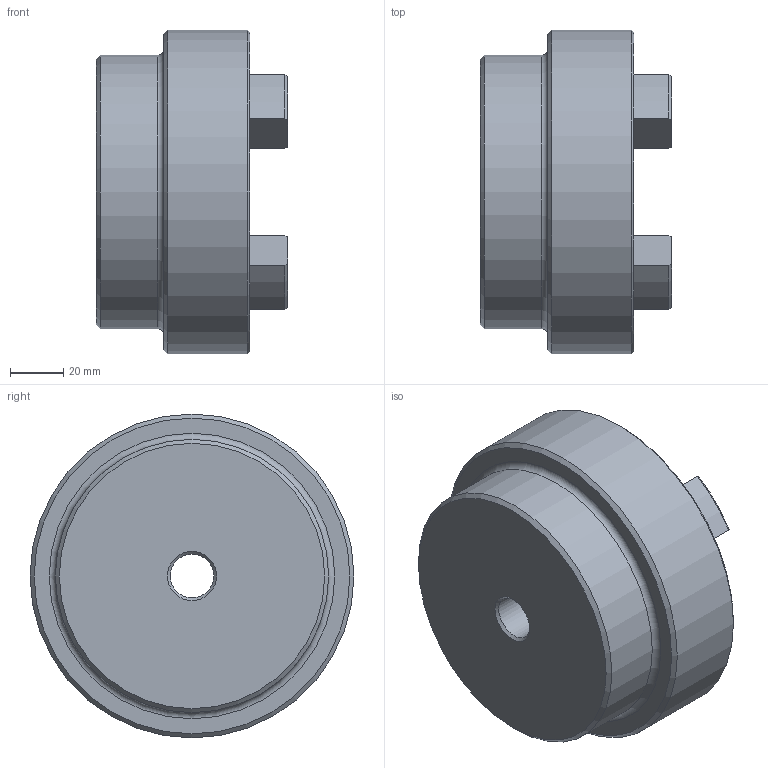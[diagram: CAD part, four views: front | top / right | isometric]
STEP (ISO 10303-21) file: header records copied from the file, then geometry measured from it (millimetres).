
FILE_DESCRIPTION (( 'STEP AP203' ), '1' );
FILE_NAME ('RC5.step', '2024-07-25T13:19:19', ( 'Adlan' ), ( '' ), 'SwSTEP 2.0', 'SolidWorks 2013', '' );
FILE_SCHEMA (( 'CONFIG_CONTROL_DESIGN' ));
Length unit declared in the file: inch
Products named in the file (1): RC5
Bounding box: 72.14 x 122.17 x 122.17 mm (x, y, z)
Volume: 470750.5 mm3; surface area: 57464.8 mm2
Topology: 1 solids, 1 shells, 76 faces, 189 edges, 117 vertices
Faces by surface type: cylinder 31, torus 17, plane 16, cone 12
Full cylindrical faces by diameter (mm): 16.51 x1, 103.124 x1, 122.174 x1
Entity records: 2349 total; most frequent: CARTESIAN_POINT 443, DIRECTION 416, ORIENTED_EDGE 358, EDGE_CURVE 179, AXIS2_PLACEMENT_3D 168, VERTEX_POINT 115, CIRCLE 91, EDGE_LOOP 88
